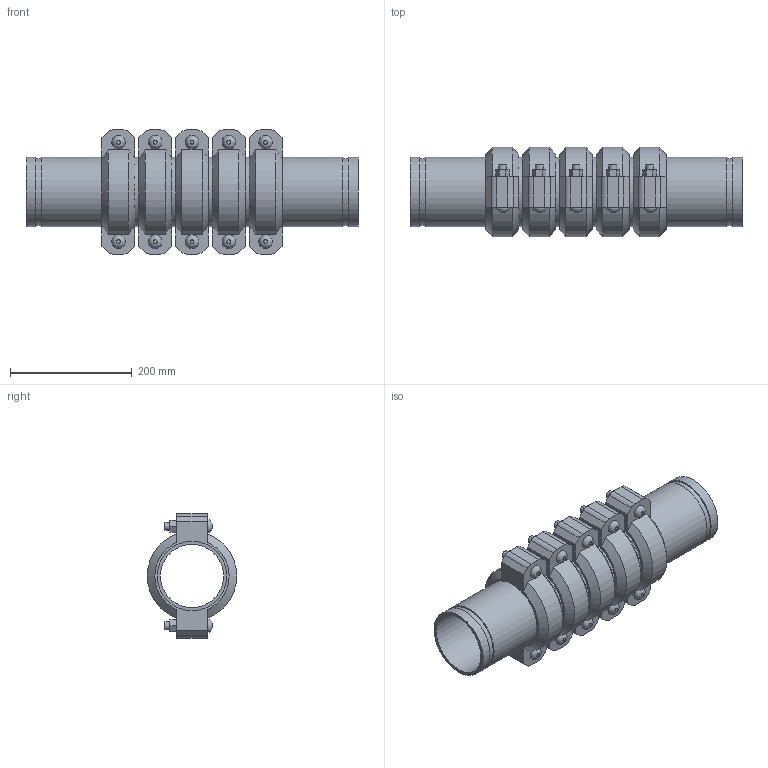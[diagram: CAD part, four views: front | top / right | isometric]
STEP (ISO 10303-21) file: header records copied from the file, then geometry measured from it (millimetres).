
FILE_DESCRIPTION(/* description */ ('VIC EXPANSION JOINT 5 COUPLINGS COMPRESSED STYLE 155 (OGS)','CAx-IF Rec.Pracs.---Representation and Presentation of Product Manufacturing Information (PMI)---4.0---2014-10-13'),/* implementation_level */ '2;1');
FILE_NAME(/* name */ 'C:\Users\kkamble\AppData\Roaming\Autodesk\ApplicationPlugins\Victaulic.Temp\A136\Victaulic_IPS_Expansion Joint_Compressed_5 Couplings_Style 155 (OGS)_4 (100).stp',/* time_stamp */ '2021-06-27T00:29:42+02:00',/* author */ ('kkamble'),/* organization */ ('Victaulic'),/* preprocessor_version */ 'ST-DEVELOPER v17.2',/* originating_system */ 'Autodesk Inventor 2019',/* authorisation */ '');
FILE_SCHEMA (('AP242_MANAGED_MODEL_BASED_3D_ENGINEERING_MIM_LF { 1 0 10303 442 1 1 4 }'));
Length unit declared in the file: inch
Products named in the file (4): 155-04.0; Nipple-04.0; Nipple-04.0_1; 075_5_Coup-04.0
Assembly tree (11 placements, depth 2):
  155-04.0
    Nipple-04.0  x2
    Nipple-04.0_1  x4
    075_5_Coup-04.0  x5
Bounding box: 545.85 x 147.32 x 203.96 mm (x, y, z)
Volume: 3277114.4 mm3; surface area: 800376.6 mm2
Topology: 11 solids, 21 shells, 357 faces, 845 edges, 594 vertices
Faces by surface type: plane 216, cylinder 111, cone 20, bspline 10
Full cylindrical faces by diameter (mm): 12.7 x20, 14.605 x10, 103.988 x6, 107.95 x5, 110.084 x12, 114.3 x28
Entity records: 2810 total; most frequent: CARTESIAN_POINT 495, DIRECTION 465, ORIENTED_EDGE 386, EDGE_CURVE 193, AXIS2_PLACEMENT_3D 186, VERTEX_POINT 138, EDGE_LOOP 107, LINE 93
